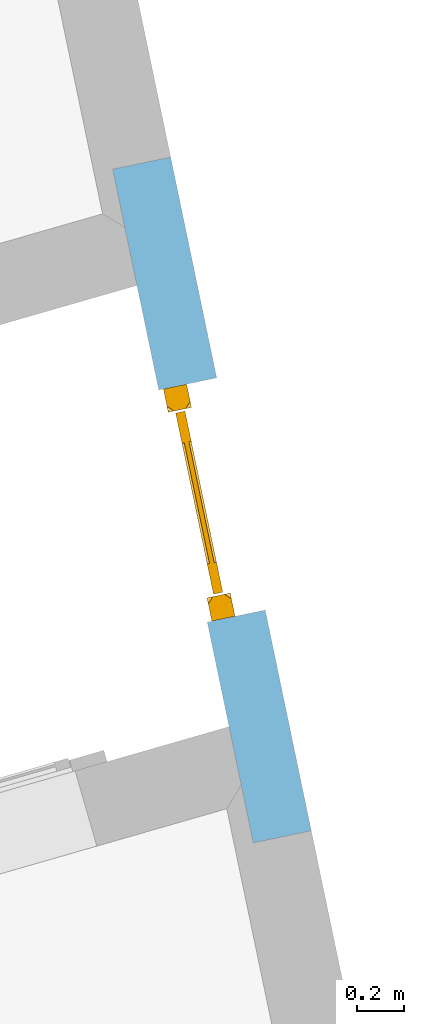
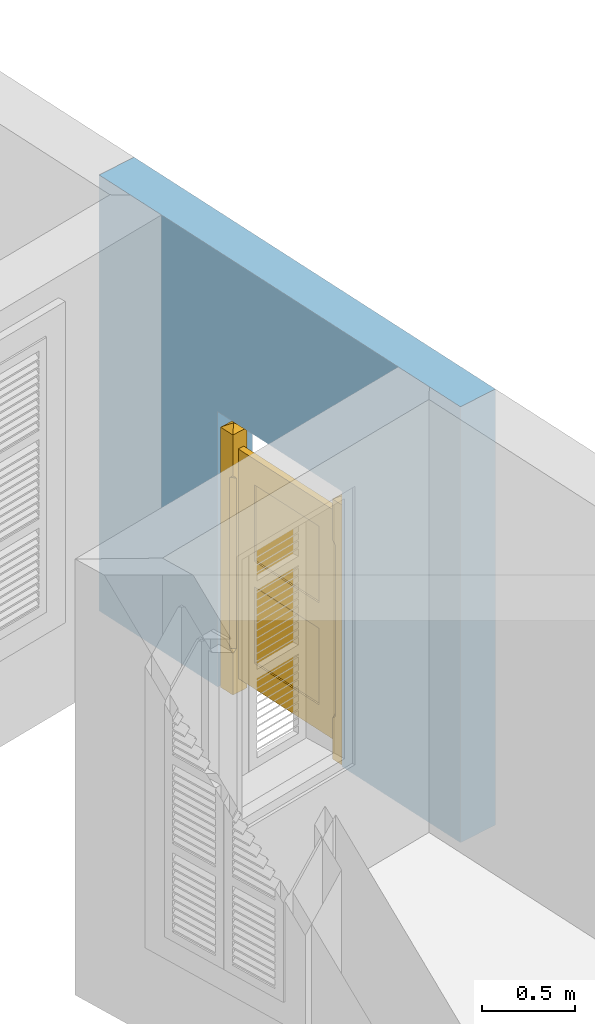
# One storey, part 15 of 16: 1 door, 1 opening, plus 1 element that does not belong to this part.
"""IFC4 building model written with IfcOpenShell, lengths in metres."""

from ifc_helpers import new_model, si_unit, frame, origin, origin_with_axes, place, context, subcontext, project, spatial, polyline, outline, extrude, faceted_brep, source, transform, mapped, material, layer, layer_set, layer_usage, type_object, type_shapes, element, fill, save


model = new_model("IFC4")

# Units and contexts
model_context = context("Model", 3, world=origin_with_axes())
body_context = subcontext(model_context, "Body", "Model", "MODEL_VIEW")
ifc_project = project(units=[si_unit("PLANEANGLEUNIT", "RADIAN"), si_unit("MASSUNIT", "GRAM", prefix="KILO"), si_unit("FORCEUNIT", "NEWTON", prefix="KILO"), si_unit("LENGTHUNIT", "METRE"), si_unit("AREAUNIT", "SQUARE_METRE"), si_unit("VOLUMEUNIT", "CUBIC_METRE")], contexts=[model_context, model_context])

# Site, building, storey
site_placement = place(None, origin_with_axes())
site = spatial("IfcSite", under=ifc_project, at=site_placement, Name="Site plot-9", CompositionType="ELEMENT")
building_placement = place(None, origin_with_axes())
building = spatial("IfcBuilding", under=site, at=building_placement, Name="Building plot-9", CompositionType="ELEMENT")
storey_placement = place(None, origin_with_axes())
storey = spatial("IfcBuildingStorey", under=building, at=storey_placement, Name="plot-9 0", CompositionType="ELEMENT", Elevation=0.0)

# Wall, opening, door
ifc_material = material(Name="Masonry")
ifc_layer = layer(ifc_material, 0.25, ventilated=False)
ifc_layer_set = layer_set([ifc_layer], Name="fence_0_0.25")
ifc_layer_usage = layer_usage(ifc_layer_set, "AXIS2", "POSITIVE", -0.25)
wall_type = type_object("IfcWallType", Name="fence_0_0.25", PredefinedType="SOLIDWALL", material=ifc_layer_set)
wall_placement = place(storey_placement, frame((-13.1564729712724, 2.80443784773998, 0.0), z_axis=(0.0, 0.0, 1.0), x_axis=(-0.204381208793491, 0.978891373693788, 0.0)))
wall = element("IfcWall", 1, at=wall_placement, inside=storey, type_object=wall_type, material=ifc_layer_usage, Name="fence", context=body_context, shape_type="SweptSolid", body=[
    extrude(outline(polyline([(-0.25, -2.52660774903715e-16), (-0.25, -0.250000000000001), (2.65238734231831, -0.25), (2.65238734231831, 5.88948299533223e-16), (-0.25, -2.52660774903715e-16)])), origin_with_axes(), (0.0, 0.0, 1.0), 2.85),
])
opening_placement = place(wall_placement, frame((0.701193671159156, 0.0, -0.01)))
opening = element("IfcOpeningElement", 2, at=opening_placement, cuts=wall, Name="My Opening", ObjectType="Opening", context=body_context, shape_type="SweptSolid", body=[
    extrude(outline(polyline([(0.0, -0.269999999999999), (1.0, -0.27), (1.0, 1.02), (2.22044604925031e-16, 1.02), (0.0, -0.269999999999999)])), origin_with_axes(), (0.0, 0.0, 1.0), 1.81),
])
door_type = type_object("IfcDoorType", Name="gate-small", OperationType="SINGLE_SWING_LEFT", PredefinedType="NOTDEFINED")
shared_shape = source(origin(), body_context, "Body", "Brep", [
    faceted_brep([(0.9, 0.25, 1.7), (0.9, 0.15, 1.7), (0.95, 0.2, 1.73), (1.0, 0.15, 1.433333), (1.0, 0.15, 1.7), (0.9, 0.15, 1.433333), (0.9, 0.25, 1.433333), (0.9, 0.25, 0.0), (1.0, 0.25, 0.0), (1.0, 0.15, 0.0), (0.9, 0.15, 0.0), (1.0, 0.25, 1.433333), (1.0, 0.25, 1.7), (0.9, 0.25, 0.266667), (1.0, 0.25, 0.266667), (1.0, 0.25, 0.291667), (0.925, 0.25, 0.291667), (0.925, 0.25, 1.408333), (1.0, 0.25, 1.408333), (1.0, 0.15, 0.266667), (1.0, 0.15, 0.291667), (1.0, 0.15, 1.408333), (0.9, 0.15, 0.266667), (0.9, 0.175, 0.291667), (0.9, 0.225, 0.291667), (0.925, 0.15, 0.291667), (0.9, 0.175, 1.408333), (0.925, 0.15, 1.408333), (0.9, 0.225, 1.408333), (0.0, 0.25, 1.7), (0.0, 0.15, 1.7), (0.05, 0.2, 1.73), (0.0, 0.25, 1.433333), (0.1, 0.25, 1.7), (0.1, 0.25, 1.433333), (0.1, 0.15, 1.7), (0.1, 0.15, 1.433333), (0.1, 0.15, 0.0), (0.0, 0.15, 0.0), (0.0, 0.25, 0.0), (0.1, 0.25, 0.0), (0.0, 0.15, 1.433333), (0.1, 0.15, 0.266667), (0.0, 0.15, 0.266667), (0.0, 0.15, 0.291667), (0.075, 0.15, 0.291667), (0.075, 0.15, 1.408333), (0.0, 0.15, 1.408333), (0.0, 0.25, 0.266667), (0.0, 0.25, 0.291667), (0.0, 0.25, 1.408333), (0.1, 0.25, 0.266667), (0.1, 0.225, 0.291667), (0.1, 0.175, 0.291667), (0.075, 0.25, 0.291667), (0.1, 0.225, 1.408333), (0.075, 0.25, 1.408333), (0.1, 0.175, 1.408333), (0.11, 0.18, 1.433333), (0.11, 0.18, 1.6), (0.11, 0.22, 1.6), (0.11, 0.22, 1.433333), (0.76, 0.22, 1.433333), (0.76, 0.22, 1.6), (0.89, 0.22, 1.6), (0.89, 0.22, 1.433333), (0.89, 0.18, 1.6), (0.89, 0.18, 1.433333), (0.24, 0.18, 1.433333), (0.24, 0.18, 1.6), (0.76, 0.22, 0.1), (0.89, 0.22, 0.1), (0.89, 0.18, 0.1), (0.76, 0.18, 0.1), (0.24, 0.22, 1.6), (0.76, 0.18, 1.6), (0.11, 0.22, 0.1), (0.24, 0.22, 0.1), (0.24, 0.18, 0.1), (0.11, 0.18, 0.1), (0.76, 0.18, 1.433333), (0.24, 0.22, 1.433333), (0.76, 0.18, 0.266667), (0.24, 0.18, 0.266667), (0.24, 0.22, 0.933333), (0.11, 0.22, 0.933333), (0.76, 0.18, 0.933333), (0.24, 0.18, 0.933333), (0.24, 0.18, 0.766667), (0.76, 0.18, 0.766667), (0.11, 0.22, 0.766667), (0.24, 0.22, 0.766667), (0.24, 0.22, 0.266667), (0.11, 0.22, 0.266667), (0.76, 0.22, 0.766667), (0.76, 0.21, 0.766667), (0.24, 0.21, 0.766667), (0.76, 0.22, 0.933333), (0.76, 0.21, 0.933333), (0.76, 0.21, 1.433333), (0.76, 0.22, 0.266667), (0.89, 0.18, 0.766667), (0.89, 0.18, 0.266667), (0.89, 0.18, 0.933333), (0.11, 0.18, 0.766667), (0.11, 0.18, 0.266667), (0.11, 0.18, 0.933333), (0.89, 0.22, 0.766667), (0.89, 0.22, 0.266667), (0.89, 0.22, 0.933333), (0.76, 0.19, 0.266667), (0.24, 0.19, 0.266667), (0.76, 0.19, 0.933333), (0.24, 0.19, 0.933333), (0.24, 0.19, 1.433333), (0.76, 0.19, 1.433333), (0.24, 0.19, 0.766667), (0.76, 0.19, 0.766667), (0.24, 0.21, 1.433333), (0.24, 0.21, 0.933333), (0.76, 0.21, 0.266667), (0.24, 0.21, 0.266667)], [[[0, 1, 2]], [[3, 4, 1]], [[3, 1, 5]], [[5, 1, 0]], [[5, 0, 6]], [[7, 8, 9]], [[7, 9, 10]], [[11, 12, 4]], [[11, 4, 3]], [[6, 0, 12]], [[6, 12, 11]], [[7, 13, 14]], [[7, 14, 8]], [[15, 14, 13]], [[15, 13, 16]], [[17, 18, 15]], [[17, 15, 16]], [[17, 6, 11]], [[17, 11, 18]], [[8, 14, 19]], [[8, 19, 9]], [[14, 15, 20]], [[14, 20, 19]], [[15, 18, 21]], [[15, 21, 20]], [[18, 11, 3]], [[18, 3, 21]], [[10, 22, 13]], [[10, 13, 7]], [[23, 24, 13]], [[23, 13, 22]], [[25, 23, 22]], [[5, 26, 27]], [[9, 19, 22]], [[9, 22, 10]], [[19, 20, 25]], [[19, 25, 22]], [[28, 17, 16]], [[28, 16, 24]], [[21, 3, 5]], [[21, 5, 27]], [[21, 27, 25]], [[21, 25, 20]], [[25, 27, 26]], [[25, 26, 23]], [[16, 13, 24]], [[26, 28, 24]], [[26, 24, 23]], [[28, 26, 5]], [[28, 5, 6]], [[17, 28, 6]], [[29, 30, 31]], [[32, 29, 33]], [[32, 33, 34]], [[34, 33, 35]], [[34, 35, 36]], [[37, 38, 39]], [[37, 39, 40]], [[41, 30, 29]], [[41, 29, 32]], [[36, 35, 30]], [[36, 30, 41]], [[37, 42, 43]], [[37, 43, 38]], [[44, 43, 42]], [[44, 42, 45]], [[46, 47, 44]], [[46, 44, 45]], [[46, 36, 41]], [[46, 41, 47]], [[38, 43, 48]], [[38, 48, 39]], [[43, 44, 49]], [[43, 49, 48]], [[44, 47, 50]], [[44, 50, 49]], [[47, 41, 32]], [[47, 32, 50]], [[40, 51, 42]], [[40, 42, 37]], [[52, 53, 42]], [[52, 42, 51]], [[54, 52, 51]], [[34, 55, 56]], [[39, 48, 51]], [[39, 51, 40]], [[48, 49, 54]], [[48, 54, 51]], [[57, 46, 45]], [[57, 45, 53]], [[50, 32, 34]], [[50, 34, 56]], [[50, 56, 54]], [[50, 54, 49]], [[54, 56, 55]], [[54, 55, 52]], [[45, 42, 53]], [[55, 57, 53]], [[55, 53, 52]], [[57, 55, 34]], [[57, 34, 36]], [[46, 57, 36]], [[33, 29, 31]], [[35, 33, 31]], [[35, 31, 30]], [[12, 0, 2]], [[4, 12, 2]], [[4, 2, 1]], [[58, 59, 60]], [[58, 60, 61]], [[62, 63, 64]], [[62, 64, 65]], [[65, 64, 66]], [[65, 66, 67]], [[68, 69, 59]], [[68, 59, 58]], [[70, 71, 72]], [[70, 72, 73]], [[74, 60, 59]], [[74, 59, 69]], [[64, 63, 75]], [[64, 75, 66]], [[74, 69, 75]], [[74, 75, 63]], [[76, 77, 78]], [[76, 78, 79]], [[77, 70, 73]], [[77, 73, 78]], [[67, 66, 75]], [[67, 75, 80]], [[81, 74, 63]], [[81, 63, 62]], [[61, 60, 74]], [[61, 74, 81]], [[82, 83, 78]], [[82, 78, 73]], [[75, 69, 68]], [[75, 68, 80]], [[61, 81, 84]], [[61, 84, 85]], [[86, 87, 88]], [[86, 88, 89]], [[90, 91, 92]], [[90, 92, 93]], [[76, 93, 92]], [[76, 92, 77]], [[91, 94, 95]], [[91, 95, 96]], [[90, 85, 84]], [[90, 84, 91]], [[62, 97, 98]], [[62, 98, 99]], [[77, 92, 100]], [[77, 100, 70]], [[101, 89, 82]], [[101, 82, 102]], [[91, 84, 97]], [[91, 97, 94]], [[67, 80, 86]], [[67, 86, 103]], [[72, 102, 82]], [[72, 82, 73]], [[88, 104, 105]], [[88, 105, 83]], [[101, 103, 86]], [[101, 86, 89]], [[68, 58, 106]], [[68, 106, 87]], [[78, 83, 105]], [[78, 105, 79]], [[107, 101, 102]], [[107, 102, 108]], [[88, 87, 106]], [[88, 106, 104]], [[65, 67, 103]], [[65, 103, 109]], [[71, 108, 102]], [[71, 102, 72]], [[94, 107, 108]], [[94, 108, 100]], [[107, 109, 103]], [[107, 103, 101]], [[62, 65, 109]], [[62, 109, 97]], [[70, 100, 108]], [[70, 108, 71]], [[105, 104, 90]], [[105, 90, 93]], [[94, 97, 109]], [[94, 109, 107]], [[106, 58, 61]], [[106, 61, 85]], [[79, 105, 93]], [[79, 93, 76]], [[83, 82, 110]], [[83, 110, 111]], [[104, 106, 85]], [[104, 85, 90]], [[87, 86, 112]], [[87, 112, 113]], [[114, 113, 112]], [[114, 112, 115]], [[68, 87, 113]], [[68, 113, 114]], [[80, 68, 114]], [[80, 114, 115]], [[86, 80, 115]], [[86, 115, 112]], [[116, 111, 110]], [[116, 110, 117]], [[88, 83, 111]], [[88, 111, 116]], [[89, 88, 116]], [[89, 116, 117]], [[82, 89, 117]], [[82, 117, 110]], [[118, 99, 98]], [[118, 98, 119]], [[84, 81, 118]], [[84, 118, 119]], [[81, 62, 99]], [[81, 99, 118]], [[97, 84, 119]], [[97, 119, 98]], [[96, 95, 120]], [[96, 120, 121]], [[94, 100, 120]], [[94, 120, 95]], [[100, 92, 121]], [[100, 121, 120]], [[92, 91, 96]], [[92, 96, 121]]]),
])
type_shapes(door_type, [shared_shape])
door_placement = place(storey_placement, frame((-13.0354831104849, 3.5460132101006, -0.01), z_axis=(0.0, 0.0, 1.0), x_axis=(-0.204381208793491, 0.978891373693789, 0.0)))
door = element("IfcDoor", 3, at=door_placement, inside=storey, type_object=door_type, Name="gate", OverallHeight=1.81, OverallWidth=1.0, context=body_context, shape_type="MappedRepresentation", body=[
    mapped(shared_shape, transform((0.0, 0.0, 0.0), scale=1.0)),
])
fill(opening, door)

save(model, "model.ifc")
